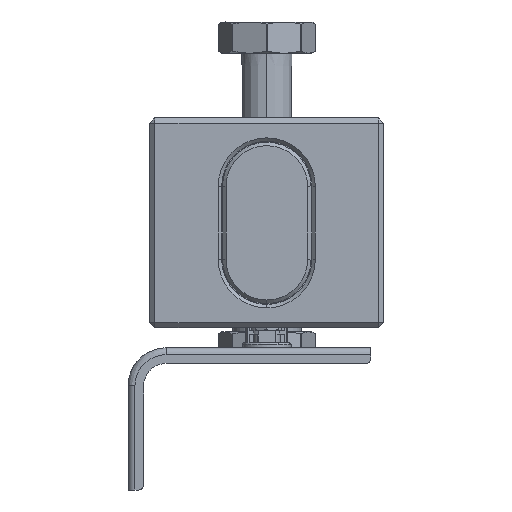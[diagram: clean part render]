
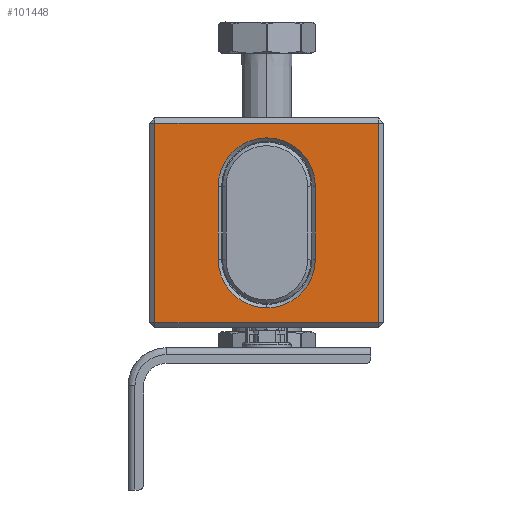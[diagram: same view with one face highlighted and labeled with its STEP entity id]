
A CAD part, left-side view. The second image highlights one B-rep face of the part: STEP entity #101448.
In plain terms, the highlighted planar face has unit normal (-1, 0, 0) as drawn and (0, -1, 0) by its records, which use the part's own axes.
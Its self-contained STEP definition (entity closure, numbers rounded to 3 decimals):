
#230 = VERTEX_POINT ( 'NONE', #105403 ) ;
#1891 = EDGE_CURVE ( 'NONE', #230, #13734, #66775, .T. ) ;
#2256 = LINE ( 'NONE', #113101, #141955 ) ;
#2377 = ORIENTED_EDGE ( 'NONE', *, *, #18432, .T. ) ;
#2409 = DIRECTION ( 'NONE',  ( 0., 0., -1. ) ) ;
#5071 = LINE ( 'NONE', #95187, #103142 ) ;
#5181 = DIRECTION ( 'NONE',  ( 0., 1., 0. ) ) ;
#6346 = CARTESIAN_POINT ( 'NONE',  ( 50., -7.003, 21. ) ) ;
#7116 = FACE_BOUND ( 'NONE', #32579, .T. ) ;
#8427 = DIRECTION ( 'NONE',  ( 0., 0., 1. ) ) ;
#9315 = AXIS2_PLACEMENT_3D ( 'NONE', #6346, #37434, #49257 ) ;
#10138 = EDGE_CURVE ( 'NONE', #143128, #18302, #2256, .T. ) ;
#13292 = CARTESIAN_POINT ( 'NONE',  ( 78., -7.003, -21. ) ) ;
#13734 = VERTEX_POINT ( 'NONE', #73532 ) ;
#15495 = CARTESIAN_POINT ( 'NONE',  ( -14.5, -7.003, -57.5 ) ) ;
#18302 = VERTEX_POINT ( 'NONE', #19052 ) ;
#18432 = EDGE_CURVE ( 'NONE', #13734, #32818, #91908, .T. ) ;
#19052 = CARTESIAN_POINT ( 'NONE',  ( -14.5, -7.003, 57.5 ) ) ;
#19923 = EDGE_CURVE ( 'NONE', #123008, #88272, #107139, .T. ) ;
#20571 = ORIENTED_EDGE ( 'NONE', *, *, #1891, .T. ) ;
#21645 = CARTESIAN_POINT ( 'NONE',  ( 114.5, -7.003, 57.5 ) ) ;
#22043 = CARTESIAN_POINT ( 'NONE',  ( 114.5, -7.003, -57.5 ) ) ;
#23704 = DIRECTION ( 'NONE',  ( -1., 0., 0. ) ) ;
#25938 = EDGE_CURVE ( 'NONE', #125113, #103589, #124169, .T. ) ;
#28358 = CARTESIAN_POINT ( 'NONE',  ( 50., -7.003, -21. ) ) ;
#30032 = DIRECTION ( 'NONE',  ( 0., -1., 0. ) ) ;
#32579 = EDGE_LOOP ( 'NONE', ( #2377, #79719, #58018, #57190, #20571 ) ) ;
#32818 = VERTEX_POINT ( 'NONE', #125073 ) ;
#37434 = DIRECTION ( 'NONE',  ( 0., 1., 0. ) ) ;
#38140 = ORIENTED_EDGE ( 'NONE', *, *, #10138, .T. ) ;
#39056 = DIRECTION ( 'NONE',  ( 0., 0., -1. ) ) ;
#39195 = AXIS2_PLACEMENT_3D ( 'NONE', #50963, #5181, #139578 ) ;
#39934 = EDGE_CURVE ( 'NONE', #88272, #143128, #137550, .T. ) ;
#43222 = ORIENTED_EDGE ( 'NONE', *, *, #19923, .T. ) ;
#49257 = DIRECTION ( 'NONE',  ( 1., 0., 0. ) ) ;
#50963 = CARTESIAN_POINT ( 'NONE',  ( 50., -7.003, -21. ) ) ;
#54972 = DIRECTION ( 'NONE',  ( 0., 0., -1. ) ) ;
#57190 = ORIENTED_EDGE ( 'NONE', *, *, #141210, .T. ) ;
#58018 = ORIENTED_EDGE ( 'NONE', *, *, #25938, .T. ) ;
#58970 = ORIENTED_EDGE ( 'NONE', *, *, #89017, .T. ) ;
#65272 = DIRECTION ( 'NONE',  ( 0., 1., 0. ) ) ;
#66775 = LINE ( 'NONE', #76399, #128257 ) ;
#73183 = VECTOR ( 'NONE', #141056, 1000. ) ;
#73532 = CARTESIAN_POINT ( 'NONE',  ( 22., -7.003, 21. ) ) ;
#76399 = CARTESIAN_POINT ( 'NONE',  ( 22., -7.003, 0. ) ) ;
#79719 = ORIENTED_EDGE ( 'NONE', *, *, #103551, .T. ) ;
#85237 = DIRECTION ( 'NONE',  ( 0., 0., -1. ) ) ;
#86161 = PLANE ( 'NONE',  #90933 ) ;
#88272 = VERTEX_POINT ( 'NONE', #22043 ) ;
#89017 = EDGE_CURVE ( 'NONE', #18302, #123008, #132479, .T. ) ;
#90933 = AXIS2_PLACEMENT_3D ( 'NONE', #131169, #30032, #2409 ) ;
#91908 = CIRCLE ( 'NONE', #9315, 28. ) ;
#92541 = DIRECTION ( 'NONE',  ( 0., 0., 1. ) ) ;
#95187 = CARTESIAN_POINT ( 'NONE',  ( 78., -7.003, 0. ) ) ;
#96064 = CARTESIAN_POINT ( 'NONE',  ( -17.5, -7.003, -57.5 ) ) ;
#97233 = FACE_OUTER_BOUND ( 'NONE', #119264, .T. ) ;
#98107 = ORIENTED_EDGE ( 'NONE', *, *, #39934, .T. ) ;
#100548 = CIRCLE ( 'NONE', #39195, 28. ) ;
#101448 = ADVANCED_FACE ( 'NONE', ( #7116, #97233 ), #86161, .T. ) ;
#102870 = CARTESIAN_POINT ( 'NONE',  ( 114.5, -7.003, 0. ) ) ;
#103142 = VECTOR ( 'NONE', #39056, 1000. ) ;
#103551 = EDGE_CURVE ( 'NONE', #32818, #125113, #5071, .T. ) ;
#103589 = VERTEX_POINT ( 'NONE', #126945 ) ;
#105403 = CARTESIAN_POINT ( 'NONE',  ( 22., -7.003, -21. ) ) ;
#107139 = LINE ( 'NONE', #96064, #73183 ) ;
#113101 = CARTESIAN_POINT ( 'NONE',  ( -17.5, -7.003, 57.5 ) ) ;
#119264 = EDGE_LOOP ( 'NONE', ( #38140, #58970, #43222, #98107 ) ) ;
#120672 = CARTESIAN_POINT ( 'NONE',  ( -14.5, -7.003, 0. ) ) ;
#123008 = VERTEX_POINT ( 'NONE', #15495 ) ;
#124169 = CIRCLE ( 'NONE', #131223, 28. ) ;
#125073 = CARTESIAN_POINT ( 'NONE',  ( 78., -7.003, 21. ) ) ;
#125113 = VERTEX_POINT ( 'NONE', #13292 ) ;
#125456 = VECTOR ( 'NONE', #92541, 1000. ) ;
#126945 = CARTESIAN_POINT ( 'NONE',  ( 50., -7.003, -49. ) ) ;
#128257 = VECTOR ( 'NONE', #8427, 1000. ) ;
#131169 = CARTESIAN_POINT ( 'NONE',  ( -17.5, -7.003, 0. ) ) ;
#131223 = AXIS2_PLACEMENT_3D ( 'NONE', #28358, #65272, #85237 ) ;
#132479 = LINE ( 'NONE', #120672, #144135 ) ;
#137550 = LINE ( 'NONE', #102870, #125456 ) ;
#139578 = DIRECTION ( 'NONE',  ( 0., 0., -1. ) ) ;
#141056 = DIRECTION ( 'NONE',  ( 1., 0., 0. ) ) ;
#141210 = EDGE_CURVE ( 'NONE', #103589, #230, #100548, .T. ) ;
#141955 = VECTOR ( 'NONE', #23704, 1000. ) ;
#143128 = VERTEX_POINT ( 'NONE', #21645 ) ;
#144135 = VECTOR ( 'NONE', #54972, 1000. ) ;
